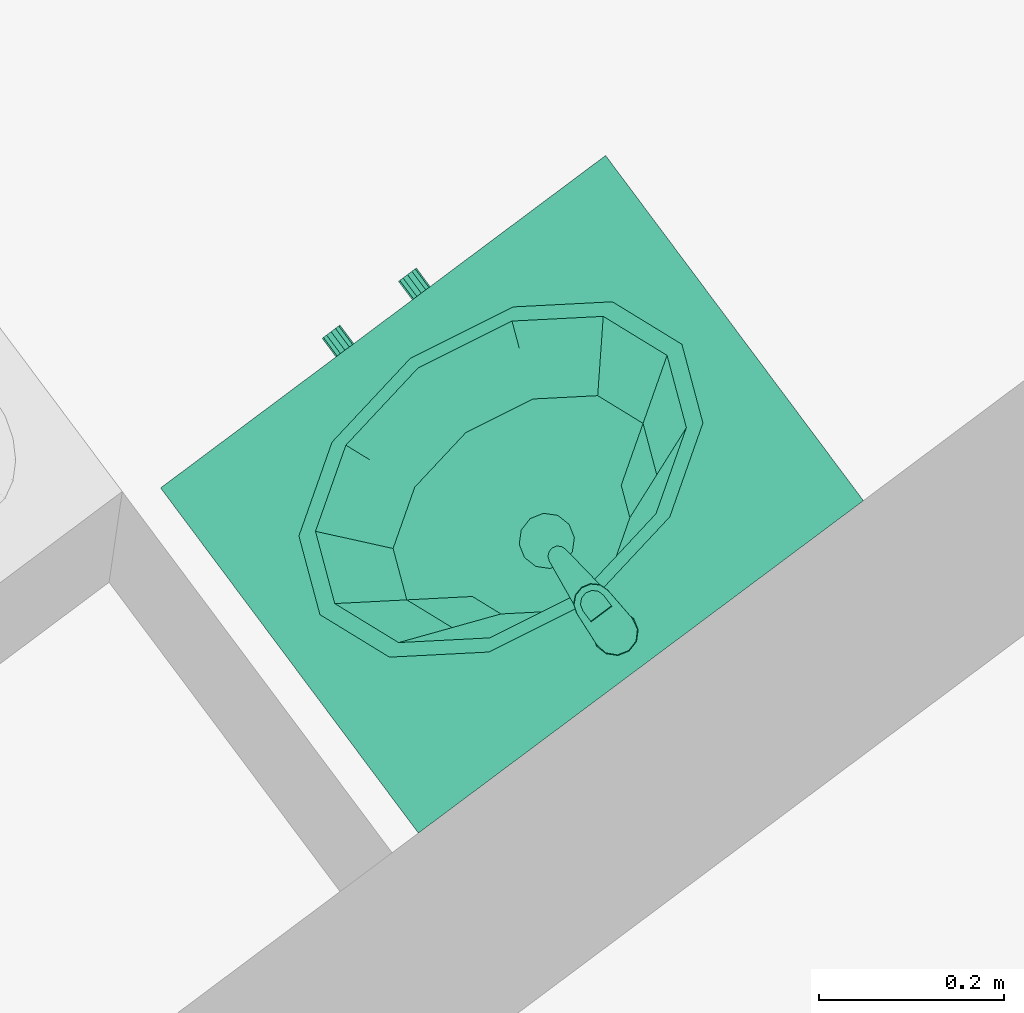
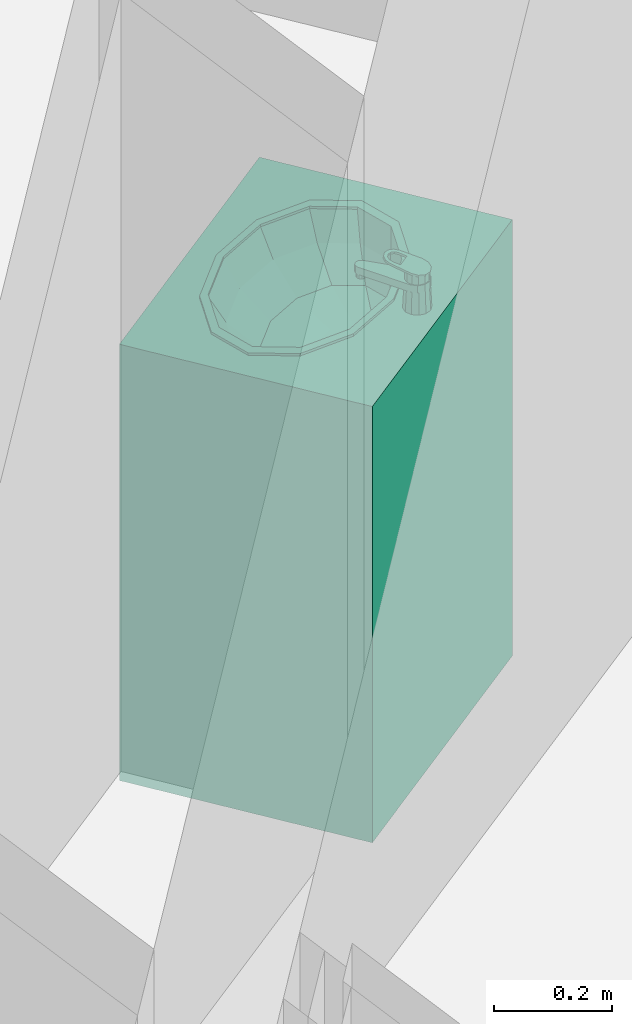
# One storey, part 86 of 121: 1 distribution element.
"""IFC2X3 building model written with IfcOpenShell, lengths in metres."""

from ifc_helpers import new_model, entity, si_unit, converted_unit, derived_unit, money_unit, direction, frame, origin_with_axes, place, context, subcontext, project, spatial, open_shell, faceted_brep, surface_model, source, transform, mapped, type_object, element, save


model = new_model("IFC2X3")

# Units and contexts
model_context = context("Model", 3, precision=1e-05, world=origin_with_axes(), true_north=direction((0.0, 1.0)))
body_context = subcontext(model_context, "Body", "Model", "MODEL_VIEW")
ifc_project = project(units=[si_unit("LENGTHUNIT", "METRE"), si_unit("AREAUNIT", "SQUARE_METRE"), si_unit("VOLUMEUNIT", "CUBIC_METRE"), converted_unit("PLANEANGLEUNIT", "DEGREE", entity("IfcPlaneAngleMeasure", 0.0174532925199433), si_unit("PLANEANGLEUNIT", "RADIAN"), dimensions=[0, 0, 0, 0, 0, 0, 0]), money_unit("CHF"), converted_unit("TIMEUNIT", "Year", entity("IfcTimeMeasure", 31557600.0), si_unit("TIMEUNIT", "SECOND"), dimensions=[0, 0, 1, 0, 0, 0, 0]), si_unit("MASSUNIT", "GRAM", prefix="KILO"), si_unit("THERMODYNAMICTEMPERATUREUNIT", "DEGREE_CELSIUS"), si_unit("LUMINOUSINTENSITYUNIT", "LUMEN"), si_unit("ENERGYUNIT", "JOULE", prefix="MEGA"), derived_unit("THERMALCONDUCTANCEUNIT", [(si_unit("POWERUNIT", "WATT"), 1), (si_unit("LENGTHUNIT", "METRE"), -1), (si_unit("THERMODYNAMICTEMPERATUREUNIT", "KELVIN"), -1)]), derived_unit("SPECIFICHEATCAPACITYUNIT", [(si_unit("ENERGYUNIT", "JOULE"), 1), (si_unit("MASSUNIT", "GRAM", prefix="KILO"), -1), (si_unit("THERMODYNAMICTEMPERATUREUNIT", "KELVIN"), -1)]), derived_unit("MASSDENSITYUNIT", [(si_unit("MASSUNIT", "GRAM", prefix="KILO"), 1), (si_unit("VOLUMEUNIT", "CUBIC_METRE"), -1)])], contexts=[model_context])

# Site, building, storey
site_placement = place(None, origin_with_axes())
site = spatial("IfcSite", under=ifc_project, at=site_placement, Name="Site", CompositionType="ELEMENT")
building_placement = place(site_placement, origin_with_axes())
building = spatial("IfcBuilding", under=site, at=building_placement, Name="Bâtiment", CompositionType="ELEMENT")
storey_placement = place(building_placement, frame((0.0, 0.0, 2.75), z_axis=(0.0, 0.0, 1.0), x_axis=(1.0, 0.0, 0.0)))
storey = spatial("IfcBuildingStorey", under=building, at=storey_placement, Name="Etage 1", CompositionType="ELEMENT", Elevation=2.75)

# Distribution element
distribution_element_type = type_object("IfcDistributionElementType", Name="Lavabo sur meuble 27")
shared_shape = source(origin_with_axes(), body_context, "Body", "SurfaceModel", [
    faceted_brep([(0.0, 0.0, 0.0), (0.6, 0.0, 0.0), (0.6, 0.0, 0.1), (0.0, 0.0, 0.1), (0.0, 0.4653441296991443, 0.0), (0.6, 0.4653441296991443, 0.0), (0.6, 0.4653441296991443, 0.1), (0.0, 0.4653441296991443, 0.1)], [[[0, 1, 2, 3]], [[0, 4, 5, 1]], [[1, 5, 6, 2]], [[3, 2, 6, 7]], [[4, 0, 3, 7]], [[5, 4, 7, 6]]]),
    faceted_brep([(0.0, 0.0, 0.1), (0.02, 0.0, 0.1), (0.02, 0.0, 0.12), (0.0, 0.0, 0.12), (0.0, 0.4653441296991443, 0.1), (0.02, 0.4653441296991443, 0.1), (0.58, 0.4653441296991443, 0.1), (0.6, 0.4653441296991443, 0.1), (0.6, 0.0, 0.1), (0.58, 0.0, 0.1), (0.58, 0.0, 0.12), (0.6, 0.0, 0.12), (0.6, 0.4653441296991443, 0.12), (0.58, 0.4653441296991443, 0.12), (0.02, 0.4653441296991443, 0.12), (0.0, 0.4653441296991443, 0.12)], [[[0, 1, 2, 3]], [[0, 4, 5, 6, 7, 8, 9, 1]], [[1, 9, 10, 2]], [[3, 2, 10, 11, 12, 13, 14, 15]], [[4, 0, 3, 15]], [[5, 4, 15, 14]], [[6, 5, 14, 13]], [[7, 6, 13, 12]], [[8, 7, 12, 11]], [[9, 8, 11, 10]]]),
    faceted_brep([(0.0, 0.0, 0.12), (0.02, 0.0, 0.12), (0.02, 0.0, 0.85), (0.0, 0.0, 0.85), (0.0, 0.4653441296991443, 0.12), (0.6, 0.4653441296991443, 0.12), (0.6, 0.0, 0.12), (0.58, 0.0, 0.12), (0.58, 0.4453441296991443, 0.12), (0.02, 0.4453441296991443, 0.12), (0.02, 0.4453441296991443, 0.85), (0.58, 0.4453441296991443, 0.85), (0.58, 0.0, 0.85), (0.6, 0.0, 0.85), (0.6, 0.4653441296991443, 0.85), (0.0, 0.4653441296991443, 0.85)], [[[0, 1, 2, 3]], [[0, 4, 5, 6, 7, 8, 9, 1]], [[1, 9, 10, 2]], [[3, 2, 10, 11, 12, 13, 14, 15]], [[4, 0, 3, 15]], [[5, 4, 15, 14]], [[6, 5, 14, 13]], [[7, 6, 13, 12]], [[8, 7, 12, 11]], [[9, 8, 11, 10]]]),
    faceted_brep([(0.58, 0.0, 0.3233333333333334), (0.58, 0.4453441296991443, 0.3233333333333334), (0.58, 0.4453441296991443, 0.3433333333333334), (0.58, 0.0, 0.3433333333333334), (0.02, 0.0, 0.3233333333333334), (0.02, 0.4453441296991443, 0.3233333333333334), (0.02, 0.4453441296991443, 0.3433333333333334), (0.02, 0.0, 0.3433333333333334)], [[[0, 1, 2, 3]], [[0, 4, 5, 1]], [[1, 5, 6, 2]], [[3, 2, 6, 7]], [[4, 0, 3, 7]], [[5, 4, 7, 6]]]),
    faceted_brep([(0.58, 0.0, 0.5666666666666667), (0.58, 0.4453441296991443, 0.5666666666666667), (0.58, 0.4453441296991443, 0.5866666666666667), (0.58, 0.0, 0.5866666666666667), (0.02, 0.0, 0.5666666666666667), (0.02, 0.4453441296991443, 0.5666666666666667), (0.02, 0.4453441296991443, 0.5866666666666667), (0.02, 0.0, 0.5866666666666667)], [[[0, 1, 2, 3]], [[0, 4, 5, 1]], [[1, 5, 6, 2]], [[3, 2, 6, 7]], [[4, 0, 3, 7]], [[5, 4, 7, 6]]]),
    faceted_brep([(0.0, 0.4653441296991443, 0.85), (0.6, 0.4653441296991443, 0.85), (0.6, 0.0, 0.85), (0.0, 0.0, 0.85), (0.4124999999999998, 0.08276825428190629, 0.85), (0.4948557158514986, 0.137672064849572, 0.85), (0.525, 0.2126720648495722, 0.85), (0.4948557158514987, 0.2876720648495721, 0.85), (0.4125, 0.3425758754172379, 0.85), (0.3, 0.3626720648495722, 0.85), (0.1875000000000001, 0.342575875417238, 0.85), (0.1051442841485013, 0.2876720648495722, 0.85), (0.07499999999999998, 0.2126720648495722, 0.85), (0.1051442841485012, 0.1376720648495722, 0.85), (0.1874999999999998, 0.08276825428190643, 0.85), (0.3, 0.06267206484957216, 0.85), (0.0, 0.4653441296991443, 0.9), (0.6, 0.4653441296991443, 0.9), (0.6, 0.0, 0.9), (0.0, 0.0, 0.9), (0.4124999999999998, 0.08276825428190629, 0.9), (0.4948557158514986, 0.137672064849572, 0.9), (0.525, 0.2126720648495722, 0.9), (0.4948557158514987, 0.2876720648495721, 0.9), (0.4125, 0.3425758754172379, 0.9), (0.3, 0.3626720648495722, 0.9), (0.1875000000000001, 0.342575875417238, 0.9), (0.1051442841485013, 0.2876720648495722, 0.9), (0.07499999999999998, 0.2126720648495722, 0.9), (0.1051442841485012, 0.1376720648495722, 0.9), (0.1874999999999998, 0.08276825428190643, 0.9), (0.3, 0.06267206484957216, 0.9)], [[[0, 1, 2, 3], [4, 5, 6, 7, 8, 9, 10, 11, 12, 13, 14, 15]], [[0, 16, 17, 1]], [[1, 17, 18, 2]], [[2, 18, 19, 3]], [[3, 19, 16, 0]], [[20, 21, 5, 4]], [[21, 22, 6, 5]], [[22, 23, 7, 6]], [[23, 24, 8, 7]], [[24, 25, 9, 8]], [[25, 26, 10, 9]], [[26, 27, 11, 10]], [[27, 28, 12, 11]], [[28, 29, 13, 12]], [[29, 30, 14, 13]], [[30, 31, 15, 14]], [[31, 20, 4, 15]], [[18, 17, 16, 19], [24, 23, 22, 21, 20, 31, 30, 29, 28, 27, 26, 25]]]),
    faceted_brep([(0.544, 0.2126720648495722, 0.905), (0.544, 0.2126720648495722, 0.9), (0.511310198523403, 0.2943684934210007, 0.9), (0.511310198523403, 0.2943684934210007, 0.905), (0.5113101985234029, 0.1309756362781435, 0.905), (0.5113101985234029, 0.1309756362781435, 0.9), (0.4219999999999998, 0.07116969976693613, 0.9), (0.3, 0.04927920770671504, 0.9), (0.1779999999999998, 0.07116969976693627, 0.9), (0.08868980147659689, 0.1309756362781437, 0.9), (0.05599999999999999, 0.2126720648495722, 0.9), (0.088689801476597, 0.2943684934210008, 0.9), (0.178, 0.3541744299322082, 0.9), (0.3, 0.3760649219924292, 0.9), (0.422, 0.3541744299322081, 0.9), (0.524, 0.2126720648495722, 0.9), (0.4939896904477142, 0.2876720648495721, 0.9), (0.412, 0.3425758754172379, 0.9), (0.3, 0.3626720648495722, 0.9), (0.1880000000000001, 0.342575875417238, 0.9), (0.1060103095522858, 0.2876720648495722, 0.9), (0.07599999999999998, 0.2126720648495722, 0.9), (0.1060103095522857, 0.1376720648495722, 0.9), (0.1879999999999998, 0.08276825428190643, 0.9), (0.3, 0.06267206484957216, 0.9), (0.4119999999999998, 0.08276825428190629, 0.9), (0.4939896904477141, 0.137672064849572, 0.9), (0.422, 0.3541744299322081, 0.905), (0.3, 0.3760649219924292, 0.905), (0.178, 0.3541744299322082, 0.905), (0.088689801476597, 0.2943684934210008, 0.905), (0.05599999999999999, 0.2126720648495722, 0.905), (0.08868980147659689, 0.1309756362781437, 0.905), (0.1779999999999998, 0.07116969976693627, 0.905), (0.3, 0.04927920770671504, 0.905), (0.4219999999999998, 0.07116969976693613, 0.905), (0.524, 0.2126720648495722, 0.905), (0.4939896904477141, 0.137672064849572, 0.905), (0.4119999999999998, 0.08276825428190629, 0.905), (0.3, 0.06267206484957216, 0.905), (0.1879999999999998, 0.08276825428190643, 0.905), (0.1060103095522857, 0.1376720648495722, 0.905), (0.07599999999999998, 0.2126720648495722, 0.905), (0.1060103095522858, 0.2876720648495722, 0.905), (0.1880000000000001, 0.342575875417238, 0.905), (0.3, 0.3626720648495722, 0.905), (0.412, 0.3425758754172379, 0.905), (0.4939896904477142, 0.2876720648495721, 0.905)], [[[0, 1, 2, 3]], [[4, 5, 1, 0]], [[1, 5, 6, 7, 8, 9, 10, 11, 12, 13, 14, 2], [15, 16, 17, 18, 19, 20, 21, 22, 23, 24, 25, 26]], [[3, 2, 14, 27]], [[0, 3, 27, 28, 29, 30, 31, 32, 33, 34, 35, 4], [36, 37, 38, 39, 40, 41, 42, 43, 44, 45, 46, 47]], [[35, 6, 5, 4]], [[34, 7, 6, 35]], [[33, 8, 7, 34]], [[32, 9, 8, 33]], [[31, 10, 9, 32]], [[30, 11, 10, 31]], [[29, 12, 11, 30]], [[28, 13, 12, 29]], [[27, 14, 13, 28]], [[47, 16, 15, 36]], [[46, 17, 16, 47]], [[45, 18, 17, 46]], [[44, 19, 18, 45]], [[43, 20, 19, 44]], [[42, 21, 20, 43]], [[41, 22, 21, 42]], [[40, 23, 22, 41]], [[39, 24, 23, 40]], [[38, 25, 24, 39]], [[37, 26, 25, 38]], [[36, 15, 26, 37]]]),
    surface_model("IfcShellBasedSurfaceModel", [(0.3, 0.3626720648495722, 0.9), (0.3, 0.3626720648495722, 0.848), (0.4008, 0.3445854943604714, 0.848), (0.412, 0.342575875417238, 0.9), (0.1879999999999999, 0.3425758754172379, 0.9), (0.1991999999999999, 0.3445854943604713, 0.848), (0.4745907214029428, 0.2951720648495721, 0.848), (0.4939896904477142, 0.2876720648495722, 0.9), (0.1060103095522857, 0.2876720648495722, 0.9), (0.1254092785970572, 0.2951720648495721, 0.848), (0.5016, 0.2276720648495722, 0.848), (0.524, 0.2126720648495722, 0.9), (0.07599999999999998, 0.2126720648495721, 0.9), (0.09839999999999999, 0.2276720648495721, 0.848), (0.4745907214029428, 0.1601720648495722, 0.848), (0.4939896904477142, 0.1376720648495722, 0.9), (0.1060103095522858, 0.1376720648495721, 0.9), (0.1254092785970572, 0.1601720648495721, 0.848), (0.4008, 0.1107586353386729, 0.848), (0.412, 0.08276825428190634, 0.9), (0.1879999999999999, 0.08276825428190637, 0.9), (0.1992, 0.110758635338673, 0.848), (0.3, 0.09267206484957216, 0.848), (0.3, 0.06267206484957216, 0.9)], [open_shell([[[0, 1, 2, 3]], [[4, 5, 1, 0]], [[3, 2, 6, 7]], [[8, 9, 5, 4]], [[7, 6, 10, 11]], [[12, 13, 9, 8]], [[11, 10, 14, 15]], [[16, 17, 13, 12]], [[15, 14, 18, 19]], [[20, 21, 17, 16]], [[19, 18, 22, 23]], [[23, 22, 21, 20]]])]),
    surface_model("IfcShellBasedSurfaceModel", [(0.3, 0.3626720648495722, 0.848), (0.3, 0.3626720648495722, 0.7959999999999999), (0.379632, 0.3483836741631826, 0.7959999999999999), (0.4008, 0.3445854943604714, 0.848), (0.1991999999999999, 0.3445854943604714, 0.848), (0.2203679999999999, 0.3483836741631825, 0.7959999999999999), (0.4379266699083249, 0.3093470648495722, 0.7959999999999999), (0.4745907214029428, 0.2951720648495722, 0.848), (0.1254092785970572, 0.2951720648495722, 0.848), (0.1620733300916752, 0.3093470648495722, 0.7959999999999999), (0.459264, 0.2560220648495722, 0.7959999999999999), (0.5016, 0.2276720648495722, 0.848), (0.09839999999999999, 0.2276720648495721, 0.848), (0.140736, 0.2560220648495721, 0.7959999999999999), (0.4379266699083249, 0.2026970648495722, 0.7959999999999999), (0.4745907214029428, 0.1601720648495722, 0.848), (0.1254092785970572, 0.1601720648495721, 0.848), (0.1620733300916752, 0.2026970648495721, 0.7959999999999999), (0.379632, 0.1636604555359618, 0.7959999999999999), (0.4008, 0.1107586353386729, 0.848), (0.1992, 0.110758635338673, 0.848), (0.220368, 0.1636604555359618, 0.7959999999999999), (0.3, 0.1493720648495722, 0.7959999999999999), (0.3, 0.09267206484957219, 0.848)], [open_shell([[[0, 1, 2, 3]], [[4, 5, 1, 0]], [[3, 2, 6, 7]], [[8, 9, 5, 4]], [[7, 6, 10, 11]], [[12, 13, 9, 8]], [[11, 10, 14, 15]], [[16, 17, 13, 12]], [[15, 14, 18, 19]], [[20, 21, 17, 16]], [[19, 18, 22, 23]], [[23, 22, 21, 20]]])]),
    surface_model("IfcShellBasedSurfaceModel", [(0.3, 0.3626720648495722, 0.7959999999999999), (0.3, 0.3626720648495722, 0.7699999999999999), (0.35016816, 0.3536703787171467, 0.7699999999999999), (0.379632, 0.3483836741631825, 0.7959999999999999), (0.2203679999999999, 0.3483836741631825, 0.7959999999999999), (0.2498318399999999, 0.3536703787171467, 0.7699999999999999), (0.3868938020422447, 0.3290773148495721, 0.7699999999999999), (0.4379266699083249, 0.3093470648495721, 0.7959999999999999), (0.1620733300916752, 0.3093470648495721, 0.7959999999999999), (0.2131061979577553, 0.3290773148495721, 0.7699999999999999), (0.40033632, 0.2954825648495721, 0.7699999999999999), (0.459264, 0.2560220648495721, 0.7959999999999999), (0.140736, 0.2560220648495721, 0.7959999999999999), (0.19966368, 0.2954825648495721, 0.7699999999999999), (0.3868938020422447, 0.2618878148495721, 0.7699999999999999), (0.4379266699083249, 0.2026970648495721, 0.7959999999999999), (0.1620733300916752, 0.2026970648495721, 0.7959999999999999), (0.2131061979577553, 0.2618878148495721, 0.7699999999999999), (0.35016816, 0.2372947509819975, 0.7699999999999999), (0.379632, 0.1636604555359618, 0.7959999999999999), (0.220368, 0.1636604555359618, 0.7959999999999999), (0.24983184, 0.2372947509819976, 0.7699999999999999), (0.3, 0.2282930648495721, 0.7699999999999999), (0.3, 0.1493720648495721, 0.7959999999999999)], [open_shell([[[0, 1, 2, 3]], [[4, 5, 1, 0]], [[3, 2, 6, 7]], [[8, 9, 5, 4]], [[7, 6, 10, 11]], [[12, 13, 9, 8]], [[11, 10, 14, 15]], [[16, 17, 13, 12]], [[15, 14, 18, 19]], [[20, 21, 17, 16]], [[19, 18, 22, 23]], [[23, 22, 21, 20]]])]),
    surface_model("IfcShellBasedSurfaceModel", [(0.3, 0.3626720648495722, 0.7699999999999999), (0.315, 0.3214633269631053, 0.7629999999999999), (0.35016816, 0.3536703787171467, 0.7699999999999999), (0.3, 0.3254825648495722, 0.7629999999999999), (0.3259807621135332, 0.3104825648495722, 0.7629999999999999), (0.2498318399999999, 0.3536703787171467, 0.7699999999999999), (0.3868938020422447, 0.3290773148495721, 0.7699999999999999), (0.285, 0.3214633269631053, 0.7629999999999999), (0.33, 0.2954825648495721, 0.7629999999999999), (0.2131061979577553, 0.3290773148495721, 0.7699999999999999), (0.40033632, 0.2954825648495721, 0.7699999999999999), (0.2740192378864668, 0.3104825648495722, 0.7629999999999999), (0.3259807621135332, 0.2804825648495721, 0.7629999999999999), (0.19966368, 0.2954825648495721, 0.7699999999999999), (0.3868938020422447, 0.2618878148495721, 0.7699999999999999), (0.27, 0.2954825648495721, 0.7629999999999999), (0.315, 0.269501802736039, 0.7629999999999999), (0.2131061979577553, 0.2618878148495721, 0.7699999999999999), (0.35016816, 0.2372947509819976, 0.7699999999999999), (0.2740192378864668, 0.2804825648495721, 0.7629999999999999), (0.3, 0.2654825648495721, 0.7629999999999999), (0.24983184, 0.2372947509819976, 0.7699999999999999), (0.3, 0.2282930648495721, 0.7699999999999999), (0.285, 0.269501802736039, 0.7629999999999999)], [open_shell([[[0, 1, 2]], [[0, 3, 1]], [[2, 1, 4]], [[5, 3, 0]], [[2, 4, 6]], [[5, 7, 3]], [[6, 4, 8]], [[9, 7, 5]], [[6, 8, 10]], [[9, 11, 7]], [[10, 8, 12]], [[13, 11, 9]], [[10, 12, 14]], [[13, 15, 11]], [[14, 12, 16]], [[17, 15, 13]], [[14, 16, 18]], [[17, 19, 15]], [[18, 16, 20]], [[21, 19, 17]], [[18, 20, 22]], [[21, 23, 19]], [[22, 20, 23]], [[22, 23, 21]]])]),
    surface_model("IfcShellBasedSurfaceModel", [(0.33, 0.2954825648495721, 0.763), (0.33, 0.2954825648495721, 0.758), (0.3259807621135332, 0.3104825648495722, 0.758), (0.3259807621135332, 0.3104825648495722, 0.763), (0.3259807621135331, 0.2804825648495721, 0.763), (0.3259807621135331, 0.2804825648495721, 0.758), (0.3149999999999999, 0.269501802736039, 0.758), (0.3, 0.2654825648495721, 0.758), (0.285, 0.269501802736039, 0.758), (0.2740192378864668, 0.2804825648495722, 0.758), (0.27, 0.2954825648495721, 0.758), (0.2740192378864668, 0.3104825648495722, 0.758), (0.285, 0.3214633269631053, 0.758), (0.3, 0.3254825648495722, 0.758), (0.315, 0.3214633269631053, 0.758), (0.315, 0.3214633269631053, 0.763), (0.3149999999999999, 0.269501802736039, 0.763), (0.3, 0.2654825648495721, 0.763), (0.285, 0.269501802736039, 0.763), (0.2740192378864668, 0.2804825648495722, 0.763), (0.27, 0.2954825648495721, 0.763), (0.2740192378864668, 0.3104825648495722, 0.763), (0.285, 0.3214633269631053, 0.763), (0.3, 0.3254825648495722, 0.763)], [open_shell([[[0, 1, 2, 3]], [[4, 5, 1, 0]], [[1, 5, 6, 7, 8, 9, 10, 11, 12, 13, 14, 2]], [[3, 2, 14, 15]], [[16, 6, 5, 4]], [[17, 7, 6, 16]], [[18, 8, 7, 17]], [[19, 9, 8, 18]], [[20, 10, 9, 19]], [[21, 11, 10, 20]], [[22, 12, 11, 21]], [[23, 13, 12, 22]], [[15, 14, 13, 23]]])]),
    faceted_brep([(0.3125, 0.4406587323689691, 0.9), (0.3, 0.4440080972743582, 0.9), (0.3, 0.4402100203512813, 0.9759615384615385), (0.310587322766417, 0.4373458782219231, 0.976507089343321), (0.3216506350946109, 0.4315080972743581, 0.9), (0.325, 0.4190080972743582, 0.9), (0.3216506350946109, 0.4065080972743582, 0.9), (0.3125, 0.3973574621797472, 0.9), (0.3, 0.3940080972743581, 0.9), (0.2875, 0.3973574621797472, 0.9), (0.278349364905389, 0.4065080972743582, 0.9), (0.275, 0.4190080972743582, 0.9), (0.278349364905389, 0.4315080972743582, 0.9), (0.2875, 0.4406587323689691, 0.9), (0.289412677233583, 0.4373458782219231, 0.976507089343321), (0.2817264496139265, 0.4295583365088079, 0.9779904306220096), (0.279, 0.4190080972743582, 0.98), (0.2818996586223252, 0.4085578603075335, 0.9819905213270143), (0.2895858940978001, 0.400970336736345, 0.9834357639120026), (0.3, 0.3982062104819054, 0.9839622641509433), (0.3104141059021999, 0.400970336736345, 0.9834357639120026), (0.3181003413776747, 0.4085578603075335, 0.9819905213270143), (0.321, 0.4190080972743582, 0.98), (0.3182735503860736, 0.4295583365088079, 0.9779904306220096)], [[[0, 1, 2, 3]], [[0, 4, 5, 6, 7, 8, 9, 10, 11, 12, 13, 1]], [[1, 13, 14, 2]], [[3, 2, 14, 15, 16, 17, 18, 19, 20, 21, 22, 23]], [[4, 0, 3, 23]], [[5, 4, 23, 22]], [[6, 5, 22, 21]], [[7, 6, 21, 20]], [[8, 7, 20, 19]], [[9, 8, 19, 18]], [[10, 9, 18, 17]], [[11, 10, 17, 16]], [[12, 11, 16, 15]], [[13, 12, 15, 14]]]),
    faceted_brep([(0.309, 0.3160080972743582, 0.935), (0.3077942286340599, 0.3205080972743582, 0.935), (0.3077942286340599, 0.3205080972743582, 0.9450000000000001), (0.309, 0.3160080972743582, 0.9450000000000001), (0.3077942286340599, 0.3115080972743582, 0.935), (0.3045, 0.3082138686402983, 0.935), (0.3, 0.3070080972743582, 0.935), (0.2955, 0.3082138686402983, 0.935), (0.2922057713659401, 0.3115080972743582, 0.935), (0.291, 0.3160080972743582, 0.935), (0.2922057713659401, 0.3205080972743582, 0.935), (0.2955, 0.3238023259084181, 0.935), (0.3, 0.3250080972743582, 0.935), (0.3045, 0.3238023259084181, 0.935), (0.3045, 0.3238023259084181, 0.9450000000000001), (0.3, 0.3250080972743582, 0.9450000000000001), (0.2955, 0.3238023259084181, 0.9450000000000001), (0.2922057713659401, 0.3205080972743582, 0.9450000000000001), (0.291, 0.3160080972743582, 0.9450000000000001), (0.2922057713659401, 0.3115080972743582, 0.9450000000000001), (0.2955, 0.3082138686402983, 0.9450000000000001), (0.3, 0.3070080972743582, 0.9450000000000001), (0.3045, 0.3082138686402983, 0.9450000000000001), (0.3077942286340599, 0.3115080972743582, 0.9450000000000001)], [[[0, 1, 2, 3]], [[0, 4, 5, 6, 7, 8, 9, 10, 11, 12, 13, 1]], [[1, 13, 14, 2]], [[3, 2, 14, 15, 16, 17, 18, 19, 20, 21, 22, 23]], [[4, 0, 3, 23]], [[5, 4, 23, 22]], [[6, 5, 22, 21]], [[7, 6, 21, 20]], [[8, 7, 20, 19]], [[9, 8, 19, 18]], [[10, 9, 18, 17]], [[11, 10, 17, 16]], [[12, 11, 16, 15]], [[13, 12, 15, 14]]]),
    faceted_brep([(0.2871282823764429, 0.439264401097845, 0.9600000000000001), (0.2782721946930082, 0.4292013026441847, 0.9600000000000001), (0.2761946, 0.4159581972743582, 0.9600000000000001), (0.2890880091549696, 0.3146197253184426, 0.9600000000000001), (0.2909711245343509, 0.3097249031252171, 0.9600000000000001), (0.2949066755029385, 0.3062583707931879, 0.9600000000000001), (0.300000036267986, 0.305008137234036, 0.9600000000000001), (0.3050933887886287, 0.3062584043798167, 0.9600000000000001), (0.309028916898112, 0.3097249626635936, 0.9600000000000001), (0.310912, 0.3146197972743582, 0.9600000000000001), (0.3238053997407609, 0.4159581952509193, 0.9600000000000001), (0.3217278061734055, 0.4292013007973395, 0.9600000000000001), (0.3128717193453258, 0.4392644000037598, 0.9600000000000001), (0.300000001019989, 0.44300807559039, 0.9600000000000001), (0.311, 0.4380606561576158, 0.9600000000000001), (0.3190525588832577, 0.4300080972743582, 0.9600000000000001), (0.322, 0.4190080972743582, 0.9600000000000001), (0.3190525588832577, 0.4080080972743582, 0.9600000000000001), (0.3109999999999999, 0.3999555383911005, 0.9600000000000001), (0.3, 0.3970080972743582, 0.9600000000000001), (0.289, 0.3999555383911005, 0.9600000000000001), (0.2809474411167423, 0.4080080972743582, 0.9600000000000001), (0.278, 0.4190080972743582, 0.9600000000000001), (0.2809474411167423, 0.4300080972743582, 0.9600000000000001), (0.289, 0.4380606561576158, 0.9600000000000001), (0.3, 0.4410080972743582, 0.9600000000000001), (0.2782721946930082, 0.4292013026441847, 0.9450000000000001), (0.2871282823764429, 0.439264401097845, 0.9450000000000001), (0.2761946, 0.4159581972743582, 0.9450000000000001), (0.2890880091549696, 0.3146197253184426, 0.9450000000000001), (0.2909711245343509, 0.3097249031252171, 0.9450000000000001), (0.2949066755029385, 0.3062583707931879, 0.9450000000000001), (0.300000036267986, 0.305008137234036, 0.9450000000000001), (0.3050933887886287, 0.3062584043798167, 0.9450000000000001), (0.309028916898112, 0.3097249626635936, 0.9450000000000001), (0.310912, 0.3146197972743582, 0.9450000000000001), (0.3238053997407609, 0.4159581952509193, 0.9450000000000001), (0.3217278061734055, 0.4292013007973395, 0.9450000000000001), (0.3128717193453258, 0.4392644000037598, 0.9450000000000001), (0.300000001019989, 0.44300807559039, 0.9450000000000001), (0.311375, 0.4387101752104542, 0.9450000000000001), (0.319702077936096, 0.4303830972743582, 0.9450000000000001), (0.32275, 0.4190080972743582, 0.9450000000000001), (0.319702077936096, 0.4076330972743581, 0.9450000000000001), (0.311375, 0.3993060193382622, 0.9450000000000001), (0.3, 0.3962580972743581, 0.9450000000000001), (0.288625, 0.3993060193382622, 0.9450000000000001), (0.280297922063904, 0.4076330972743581, 0.9450000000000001), (0.2772499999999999, 0.4190080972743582, 0.9450000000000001), (0.280297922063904, 0.4303830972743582, 0.9450000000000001), (0.288625, 0.4387101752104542, 0.9450000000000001), (0.3, 0.4417580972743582, 0.9450000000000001)], [[[0, 1, 2, 3, 4, 5, 6, 7, 8, 9, 10, 11, 12, 13], [14, 15, 16, 17, 18, 19, 20, 21, 22, 23, 24, 25]], [[26, 1, 0, 27]], [[28, 2, 1, 26]], [[29, 3, 2, 28]], [[30, 4, 3, 29]], [[31, 5, 4, 30]], [[32, 6, 5, 31]], [[33, 7, 6, 32]], [[34, 8, 7, 33]], [[35, 9, 8, 34]], [[36, 10, 9, 35]], [[37, 11, 10, 36]], [[38, 12, 11, 37]], [[39, 13, 12, 38]], [[27, 0, 13, 39]], [[40, 41, 15, 14]], [[41, 42, 16, 15]], [[42, 43, 17, 16]], [[43, 44, 18, 17]], [[44, 45, 19, 18]], [[20, 19, 45, 46]], [[21, 20, 46, 47]], [[22, 21, 47, 48]], [[23, 22, 48, 49]], [[24, 23, 49, 50]], [[50, 51, 25, 24]], [[51, 40, 14, 25]], [[32, 31, 30, 29, 28, 26, 27, 39, 38, 37, 36, 35, 34, 33], [44, 43, 42, 41, 40, 51, 50, 49, 48, 47, 46, 45]]]),
    faceted_brep([(0.323893, 0.4173155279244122, 0.9803223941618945), (0.3212964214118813, 0.4297828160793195, 0.9779476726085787), (0.3212964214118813, 0.4305312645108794, 0.9818770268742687), (0.323893, 0.4180639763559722, 0.9842517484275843), (0.3209459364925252, 0.377171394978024, 0.9879688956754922), (0.317663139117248, 0.3674937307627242, 0.9898122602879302), (0.3100614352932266, 0.3605443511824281, 0.9911359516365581), (0.2999995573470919, 0.3580224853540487, 0.9916163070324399), (0.289937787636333, 0.3605447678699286, 0.9911358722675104), (0.2823363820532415, 0.3674944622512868, 0.9898121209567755), (0.279054, 0.3771722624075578, 0.9879687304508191), (0.2761069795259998, 0.4173158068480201, 0.9803223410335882), (0.2787037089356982, 0.4297830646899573, 0.9779476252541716), (0.2875283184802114, 0.4390992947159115, 0.976173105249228), (0.3000001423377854, 0.4425400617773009, 0.9755177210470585), (0.3124719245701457, 0.4390991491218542, 0.9761731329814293), (0.314, 0.3934672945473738, 0.9848649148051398), (0.286, 0.3934672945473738, 0.9848649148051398), (0.286, 0.37865166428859, 0.9876869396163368), (0.2878756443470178, 0.3717752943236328, 0.9889967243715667), (0.293, 0.3667414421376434, 0.9899555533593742), (0.3, 0.3648989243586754, 0.9903065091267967), (0.307, 0.3667414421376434, 0.9899555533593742), (0.3121243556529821, 0.3717752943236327, 0.9889967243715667), (0.314, 0.37865166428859, 0.9876869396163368), (0.3124719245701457, 0.4398475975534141, 0.9801024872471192), (0.3000001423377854, 0.4432885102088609, 0.9794470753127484), (0.2875283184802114, 0.4398477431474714, 0.9801024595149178), (0.2787037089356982, 0.4305315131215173, 0.9818769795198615), (0.2761069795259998, 0.4180642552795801, 0.9842516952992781), (0.279054, 0.3779207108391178, 0.991898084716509), (0.2823363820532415, 0.3682429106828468, 0.9937414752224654), (0.289937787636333, 0.3612932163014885, 0.9950652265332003), (0.2999995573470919, 0.3587709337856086, 0.9955456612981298), (0.3100614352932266, 0.3612927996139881, 0.995065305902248), (0.317663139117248, 0.3682421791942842, 0.9937416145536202), (0.3209459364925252, 0.377919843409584, 0.9918982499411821), (0.314, 0.3942157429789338, 0.9887942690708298), (0.314, 0.3794001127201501, 0.9916162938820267), (0.3121243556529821, 0.3725237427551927, 0.9929260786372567), (0.307, 0.3674898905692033, 0.9938849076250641), (0.3, 0.3656473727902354, 0.9942358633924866), (0.293, 0.3674898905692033, 0.9938849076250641), (0.2878756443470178, 0.3725237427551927, 0.9929260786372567), (0.286, 0.3794001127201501, 0.9916162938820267), (0.286, 0.3942157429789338, 0.9887942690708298)], [[[0, 1, 2, 3]], [[0, 4, 5, 6, 7, 8, 9, 10, 11, 12, 13, 14, 15, 1], [16, 17, 18, 19, 20, 21, 22, 23, 24]], [[1, 15, 25, 2]], [[3, 2, 25, 26, 27, 28, 29, 30, 31, 32, 33, 34, 35, 36], [37, 38, 39, 40, 41, 42, 43, 44, 45]], [[4, 0, 3, 36]], [[5, 4, 36, 35]], [[6, 5, 35, 34]], [[7, 6, 34, 33]], [[8, 7, 33, 32]], [[9, 8, 32, 31]], [[10, 9, 31, 30]], [[11, 10, 30, 29]], [[12, 11, 29, 28]], [[13, 12, 28, 27]], [[14, 13, 27, 26]], [[15, 14, 26, 25]], [[17, 16, 37, 45]], [[18, 17, 45, 44]], [[19, 18, 44, 43]], [[20, 19, 43, 42]], [[21, 20, 42, 41]], [[22, 21, 41, 40]], [[23, 22, 40, 39]], [[24, 23, 39, 38]], [[16, 24, 38, 37]]]),
    surface_model("IfcShellBasedSurfaceModel", [(0.001500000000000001, 0.0, 0.1015), (0.001500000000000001, 0.0, 0.8485), (0.2985, 0.0, 0.8485), (0.2985, 0.0, 0.1015)], [open_shell([[[0, 1, 2, 3]]])]),
    faceted_brep([(0.2588923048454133, 0.0, 0.7855), (0.2545, 0.0, 0.7811076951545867), (0.2485, 0.0, 0.7795), (0.2425, 0.0, 0.7811076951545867), (0.2381076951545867, 0.0, 0.7855), (0.2365, 0.0, 0.7915), (0.2381076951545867, 0.0, 0.7975), (0.2425, 0.0, 0.8018923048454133), (0.2485, 0.0, 0.8035), (0.2545, 0.0, 0.8018923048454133), (0.2588923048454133, 0.0, 0.7975), (0.2605, 0.0, 0.7915), (0.2588923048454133, -0.025, 0.7855), (0.2545, -0.025, 0.7811076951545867), (0.2485, -0.025, 0.7795), (0.2425, -0.025, 0.7811076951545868), (0.2381076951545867, -0.025, 0.7855), (0.2365, -0.025, 0.7915), (0.2381076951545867, -0.025, 0.7975), (0.2425, -0.025, 0.8018923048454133), (0.2485, -0.025, 0.8035), (0.2545, -0.025, 0.8018923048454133), (0.2588923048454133, -0.025, 0.7975), (0.2605, -0.025, 0.7915)], [[[0, 1, 2, 3, 4, 5, 6, 7, 8, 9, 10, 11]], [[1, 0, 12, 13]], [[2, 1, 13, 14]], [[3, 2, 14, 15]], [[4, 3, 15, 16]], [[5, 4, 16, 17]], [[6, 5, 17, 18]], [[7, 6, 18, 19]], [[8, 7, 19, 20]], [[9, 8, 20, 21]], [[10, 9, 21, 22]], [[11, 10, 22, 23]], [[0, 11, 23, 12]], [[12, 23, 22, 21, 20, 19, 18, 17, 16, 15, 14, 13]]]),
    surface_model("IfcShellBasedSurfaceModel", [(0.5985, 0.0, 0.1015), (0.3015000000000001, 0.0, 0.1015), (0.3015000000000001, 0.0, 0.8485), (0.5985, 0.0, 0.8485)], [open_shell([[[0, 1, 2, 3]]])]),
    faceted_brep([(0.3411076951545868, 0.0, 0.7855), (0.3395, 0.0, 0.7915), (0.3411076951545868, 0.0, 0.7975), (0.3455, 0.0, 0.8018923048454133), (0.3515, 0.0, 0.8035), (0.3575, 0.0, 0.8018923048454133), (0.3618923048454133, 0.0, 0.7975), (0.3635, 0.0, 0.7915), (0.3618923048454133, 0.0, 0.7855), (0.3575, 0.0, 0.7811076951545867), (0.3515, 0.0, 0.7795), (0.3455, 0.0, 0.7811076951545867), (0.3411076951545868, -0.025, 0.7855), (0.3395, -0.025, 0.7915), (0.3411076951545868, -0.025, 0.7975), (0.3455, -0.025, 0.8018923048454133), (0.3515, -0.025, 0.8035), (0.3575, -0.025, 0.8018923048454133), (0.3618923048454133, -0.025, 0.7975), (0.3635, -0.025, 0.7915), (0.3618923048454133, -0.025, 0.7855), (0.3575, -0.025, 0.7811076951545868), (0.3515, -0.025, 0.7795), (0.3455, -0.025, 0.7811076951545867)], [[[0, 1, 2, 3, 4, 5, 6, 7, 8, 9, 10, 11]], [[0, 12, 13, 1]], [[1, 13, 14, 2]], [[2, 14, 15, 3]], [[3, 15, 16, 4]], [[4, 16, 17, 5]], [[5, 17, 18, 6]], [[6, 18, 19, 7]], [[7, 19, 20, 8]], [[8, 20, 21, 9]], [[9, 21, 22, 10]], [[10, 22, 23, 11]], [[11, 23, 12, 0]], [[12, 23, 22, 21, 20, 19, 18, 17, 16, 15, 14, 13]]]),
])
distribution_element_placement = place(storey_placement, frame((9537.027244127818, -1077.841612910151, 57.59999999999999), z_axis=(0.0, 0.0, 1.0), x_axis=(-0.8011628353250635, -0.5984464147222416, 0.0)))
element("IfcDistributionElement", 1, at=distribution_element_placement, inside=storey, type_object=distribution_element_type, Name="Obj.-004", context=body_context, shape_type="MappedRepresentation", body=[
    mapped(shared_shape, transform((0.0, 0.0, 0.0))),
])

save(model, "model.ifc")
